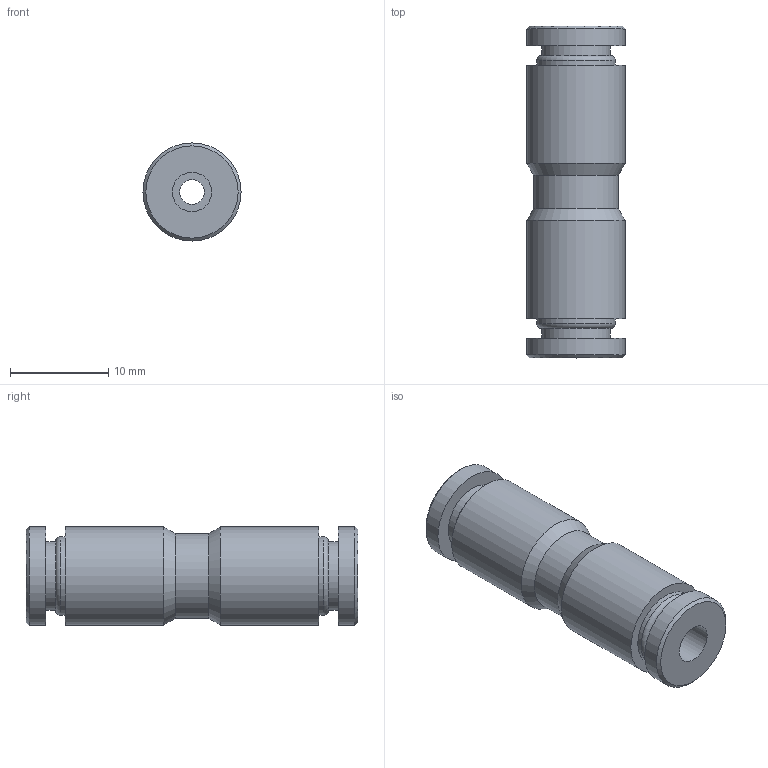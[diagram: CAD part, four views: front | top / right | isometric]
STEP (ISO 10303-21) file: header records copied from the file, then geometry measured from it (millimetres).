
FILE_DESCRIPTION(/* description */ (''),/* implementation_level */ '2;1');
FILE_NAME(/* name */ 'LXH10 0404 00.stp',/* time_stamp */ '2026-04-29T14:35:10+02:00',/* author */ ('freju'),/* organization */ (''),/* preprocessor_version */ 'ST-DEVELOPER v20.1',/* originating_system */ 'Autodesk Inventor 2026',/* authorisation */ '');
FILE_SCHEMA (('AUTOMOTIVE_DESIGN { 1 0 10303 214 3 1 1 }'));
Length unit declared in the file: millimetre
Products named in the file (1): LXH10 0404 00
Bounding box: 10 x 33.8 x 10 mm (x, y, z)
Volume: 2027.1 mm3; surface area: 1710.4 mm2
Topology: 1 solids, 1 shells, 26 faces, 50 edges, 32 vertices
Faces by surface type: cylinder 12, plane 8, cone 4, torus 2
Full cylindrical faces by diameter (mm): 2.5 x1, 4 x2, 7 x2, 8 x2, 8.6 x1, 10 x4
Entity records: 723 total; most frequent: DIRECTION 138, CARTESIAN_POINT 109, ORIENTED_EDGE 100, AXIS2_PLACEMENT_3D 61, EDGE_CURVE 50, EDGE_LOOP 34, CIRCLE 34, VERTEX_POINT 32
